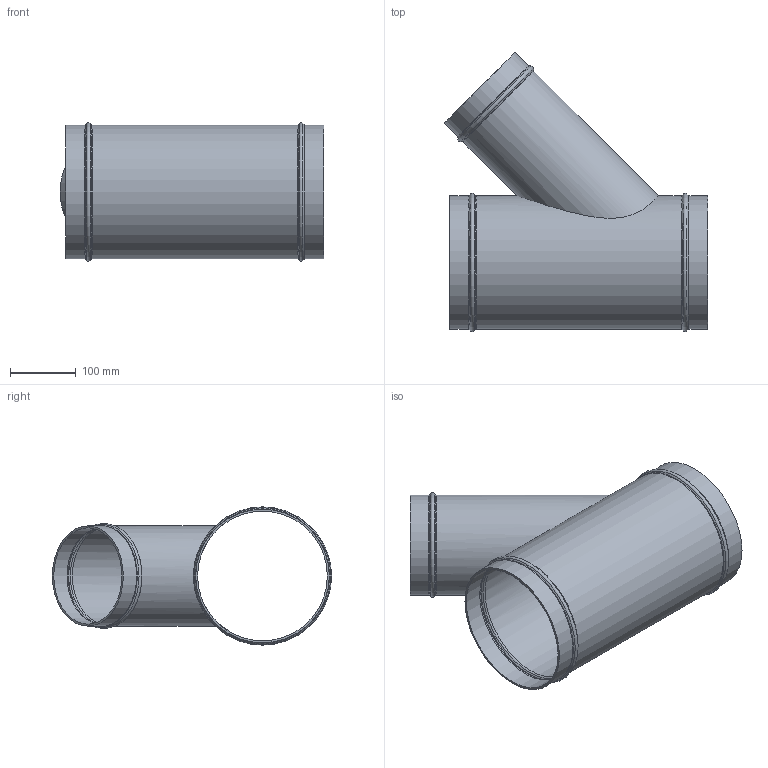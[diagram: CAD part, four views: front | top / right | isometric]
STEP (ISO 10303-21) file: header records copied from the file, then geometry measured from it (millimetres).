
FILE_DESCRIPTION(/* description */ (''),/* implementation_level */ '2;1');
FILE_NAME(/* name */ '30212111001 2016 A912 00.stp',/* time_stamp */ '2024-03-13T09:38:09+08:00',/* author */ (''),/* organization */ (''),/* preprocessor_version */ 'ST-DEVELOPER v11',/* originating_system */ 'SIEMENS PLM Software NX 7.5',/* authorisation */ '');
FILE_SCHEMA (('CONFIG_CONTROL_DESIGN'));
Length unit declared in the file: millimetre
Products named in the file (1): AdmiE02318f9
Bounding box: 402.17 x 426.16 x 210.98 mm (x, y, z)
Volume: 1042580.1 mm3; surface area: 700191.7 mm2
Topology: 1 solids, 1 shells, 43 faces, 84 edges, 44 vertices
Faces by surface type: torus 18, cone 12, cylinder 10, plane 3
Full cylindrical faces by diameter (mm): 147 x2, 153 x2, 198 x3, 204 x3
Entity records: 1096 total; most frequent: CARTESIAN_POINT 266, DIRECTION 172, FACE_BOUND 88, EDGE_LOOP 88, ORIENTED_EDGE 88, AXIS2_PLACEMENT_3D 86, VERTEX_POINT 44, EDGE_CURVE 44
